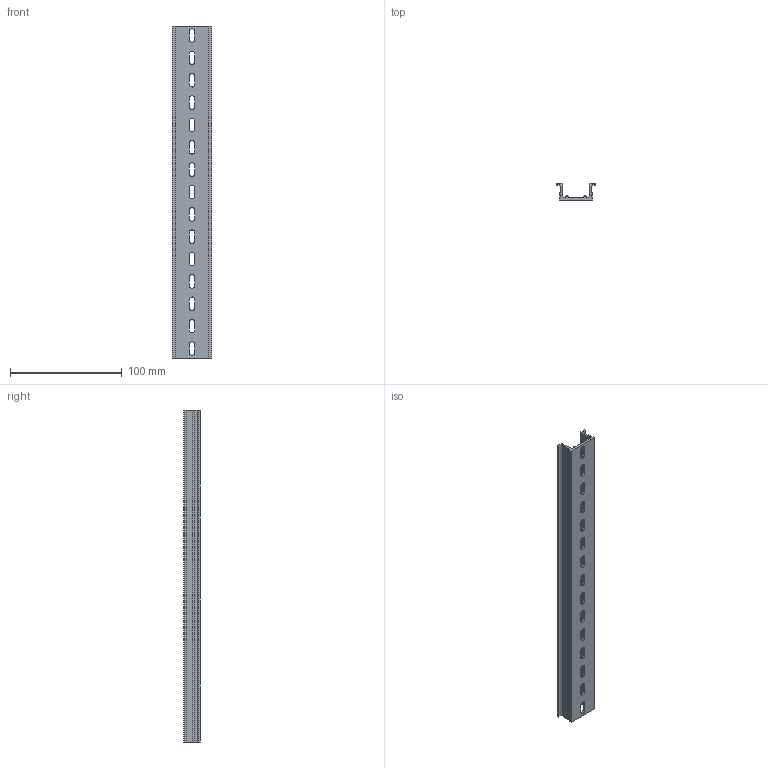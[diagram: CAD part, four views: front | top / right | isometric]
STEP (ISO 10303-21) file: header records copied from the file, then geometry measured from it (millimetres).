
FILE_DESCRIPTION(/* description */ (''),/* implementation_level */ '2;1');
FILE_NAME(/* name */ '22649-(TKB KD-15)HP 3D.stp',/* time_stamp */ '2024-12-05T13:42:26+09:00',/* author */ ('usercadg104'),/* organization */ (''),/* preprocessor_version */ 'ST-DEVELOPER v19.2',/* originating_system */ 'Autodesk Inventor 2023',/* authorisation */ '');
FILE_SCHEMA (('CONFIG_CONTROL_DESIGN'));
Length unit declared in the file: millimetre
Products named in the file (1): TKB KD-3(林)
Bounding box: 35 x 15 x 297 mm (x, y, z)
Volume: 34737.8 mm3; surface area: 40273.1 mm2
Topology: 1 solids, 1 shells, 100 faces, 294 edges, 196 vertices
Faces by surface type: plane 66, cylinder 34
Entity records: 3429 total; most frequent: CARTESIAN_POINT 591, ORIENTED_EDGE 588, DIRECTION 564, EDGE_CURVE 294, LINE 226, VECTOR 226, VERTEX_POINT 196, AXIS2_PLACEMENT_3D 169
